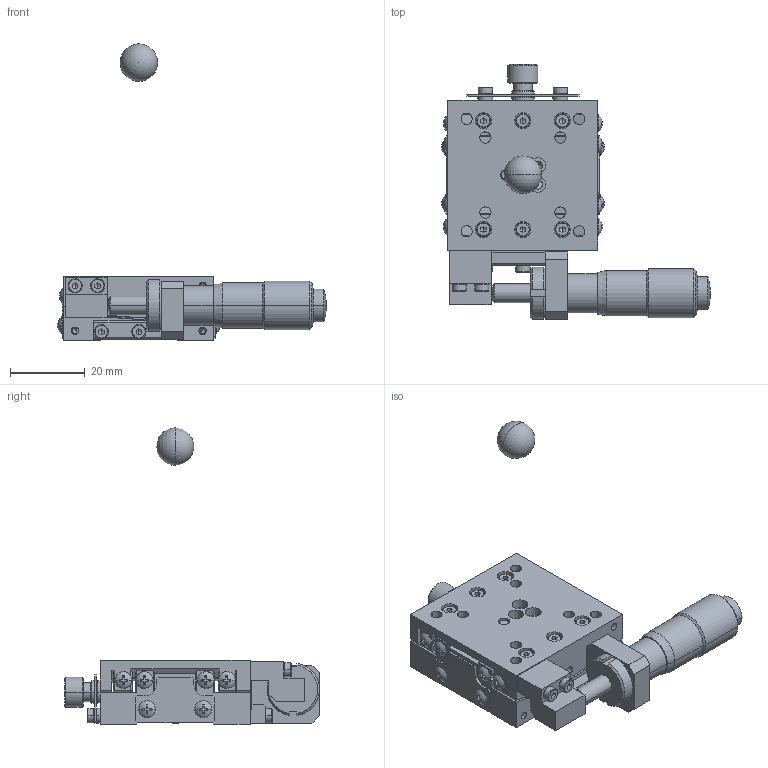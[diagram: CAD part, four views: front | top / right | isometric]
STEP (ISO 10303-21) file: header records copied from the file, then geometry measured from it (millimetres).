
FILE_DESCRIPTION (( 'STEP AP203' ), '1' );
FILE_NAME ('ST04A-S1M.STEP', '2010-01-06T04:53:11', ( ' ' ), ( ' ' ), 'SwSTEP 2.0', 'SolidWorks 2009', '' );
FILE_SCHEMA (( 'CONFIG_CONTROL_DESIGN' ));
Length unit declared in the file: millimetre
Products named in the file (7): DP002892-1020-00-Part-1-2; ST04A-S1M; DP002892-1020-00-2; DP002892-1010-00-2; DP002892-1010-00-Part-1-2; ST04A-S1M.sldasm-Part-1; MICROMETERHEAD(MHS4-13)spindle-4
Assembly tree (6 placements, depth 3):
  ST04A-S1M
    DP002892-1010-00-2
      DP002892-1010-00-Part-1-2
    ST04A-S1M.sldasm-Part-1
    DP002892-1020-00-2
      DP002892-1020-00-Part-1-2
    MICROMETERHEAD(MHS4-13)spindle-4
Bounding box: 71.68 x 68 x 79 mm (x, y, z)
Volume: 29843 mm3; surface area: 23966.3 mm2
Topology: 4 solids, 47 shells, 1613 faces, 3894 edges, 2343 vertices
Faces by surface type: plane 710, cylinder 520, cone 353, sphere 30
Entity records: 49127 total; most frequent: CARTESIAN_POINT 10534, DIRECTION 8313, ORIENTED_EDGE 7594, EDGE_CURVE 3797, AXIS2_PLACEMENT_3D 3196, VERTEX_POINT 2340, VECTOR 1921, LINE 1921
